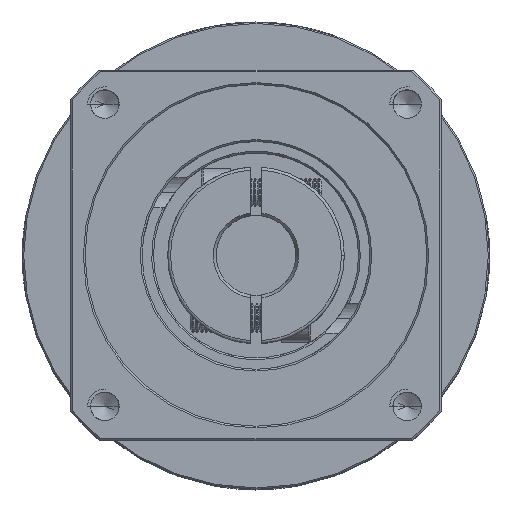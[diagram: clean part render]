
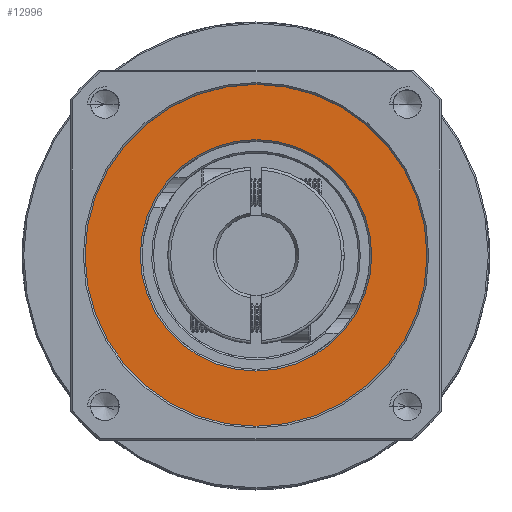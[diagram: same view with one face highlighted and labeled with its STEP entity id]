
A CAD part, top view. The second image highlights one B-rep face of the part: STEP entity #12996.
In plain terms, the highlighted planar face has unit normal (0, 0, 1).
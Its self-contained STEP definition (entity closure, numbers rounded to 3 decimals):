
#892 = DIRECTION ( 'NONE',  ( 0., 0., -1. ) ) ;
#3955 = EDGE_CURVE ( 'NONE', #48568, #54901, #58150, .T. ) ;
#4909 = CARTESIAN_POINT ( 'NONE',  ( -72.084, 16.078, 34.529 ) ) ;
#5424 = AXIS2_PLACEMENT_3D ( 'NONE', #10528, #81412, #20779 ) ;
#10203 = CARTESIAN_POINT ( 'NONE',  ( -72.084, 16.078, 34.529 ) ) ;
#10528 = CARTESIAN_POINT ( 'NONE',  ( -72.084, 16.078, 34.529 ) ) ;
#12996 = ADVANCED_FACE ( 'NONE', ( #99339, #75773 ), #91500, .T. ) ;
#15163 = DIRECTION ( 'NONE',  ( 1., 0., 0. ) ) ;
#15473 = CIRCLE ( 'NONE', #69962, 30. ) ;
#19417 = AXIS2_PLACEMENT_3D ( 'NONE', #81853, #21219, #91924 ) ;
#20461 = DIRECTION ( 'NONE',  ( 1., 0., 0. ) ) ;
#20779 = DIRECTION ( 'NONE',  ( 1., 0., 0. ) ) ;
#21219 = DIRECTION ( 'NONE',  ( 0., 0., 1. ) ) ;
#34541 = EDGE_CURVE ( 'NONE', #54901, #48568, #79113, .T. ) ;
#42368 = EDGE_CURVE ( 'NONE', #100811, #99271, #15473, .T. ) ;
#48568 = VERTEX_POINT ( 'NONE', #65059 ) ;
#54378 = CARTESIAN_POINT ( 'NONE',  ( -102.084, 16.078, 34.529 ) ) ;
#54901 = VERTEX_POINT ( 'NONE', #56774 ) ;
#56774 = CARTESIAN_POINT ( 'NONE',  ( -92.384, 16.078, 34.529 ) ) ;
#58150 = CIRCLE ( 'NONE', #81625, 20.3 ) ;
#61704 = CARTESIAN_POINT ( 'NONE',  ( -72.084, 16.078, 34.529 ) ) ;
#65059 = CARTESIAN_POINT ( 'NONE',  ( -51.784, 16.078, 34.529 ) ) ;
#69962 = AXIS2_PLACEMENT_3D ( 'NONE', #10203, #81112, #20461 ) ;
#71500 = ORIENTED_EDGE ( 'NONE', *, *, #34541, .T. ) ;
#71858 = DIRECTION ( 'NONE',  ( 1., 0., 0. ) ) ;
#74494 = ORIENTED_EDGE ( 'NONE', *, *, #42368, .T. ) ;
#75773 = FACE_OUTER_BOUND ( 'NONE', #107050, .T. ) ;
#75868 = DIRECTION ( 'NONE',  ( 0., 0., 1. ) ) ;
#79113 = CIRCLE ( 'NONE', #5424, 20.3 ) ;
#81112 = DIRECTION ( 'NONE',  ( 0., 0., 1. ) ) ;
#81412 = DIRECTION ( 'NONE',  ( 0., 0., -1. ) ) ;
#81625 = AXIS2_PLACEMENT_3D ( 'NONE', #61704, #892, #71858 ) ;
#81853 = CARTESIAN_POINT ( 'NONE',  ( -72.084, 16.078, 34.529 ) ) ;
#91500 = PLANE ( 'NONE',  #19417 ) ;
#91924 = DIRECTION ( 'NONE',  ( 1., 0., 0. ) ) ;
#99271 = VERTEX_POINT ( 'NONE', #121467 ) ;
#99339 = FACE_BOUND ( 'NONE', #116401, .T. ) ;
#100811 = VERTEX_POINT ( 'NONE', #54378 ) ;
#103258 = CIRCLE ( 'NONE', #125256, 30. ) ;
#105297 = ORIENTED_EDGE ( 'NONE', *, *, #3955, .T. ) ;
#107050 = EDGE_LOOP ( 'NONE', ( #109499, #74494 ) ) ;
#109499 = ORIENTED_EDGE ( 'NONE', *, *, #122519, .T. ) ;
#116401 = EDGE_LOOP ( 'NONE', ( #105297, #71500 ) ) ;
#121467 = CARTESIAN_POINT ( 'NONE',  ( -42.084, 16.078, 34.529 ) ) ;
#122519 = EDGE_CURVE ( 'NONE', #99271, #100811, #103258, .T. ) ;
#125256 = AXIS2_PLACEMENT_3D ( 'NONE', #4909, #75868, #15163 ) ;
